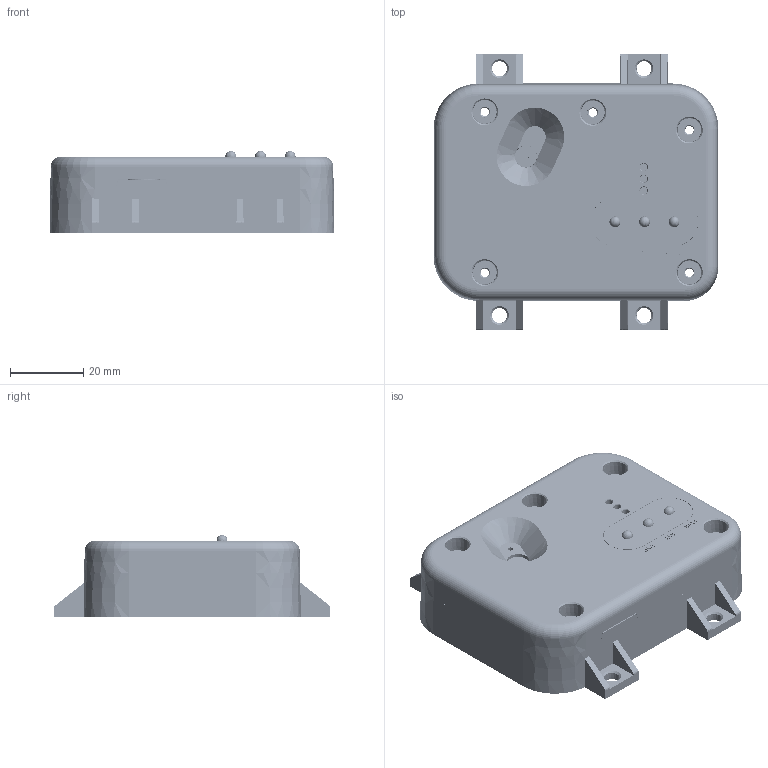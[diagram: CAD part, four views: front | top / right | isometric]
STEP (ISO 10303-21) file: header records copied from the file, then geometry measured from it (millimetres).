
FILE_DESCRIPTION (( 'STEP AP214' ), '1' );
FILE_NAME ('STEVAL-STWINBX1 - Assembly.STEP', '2023-01-17T11:06:23', ( '' ), ( '' ), 'SwSTEP 2.0', 'SolidWorks 2022', '' );
FILE_SCHEMA (( 'AUTOMOTIVE_DESIGN' ));
Length unit declared in the file: millimetre
Products named in the file (187): Copy of Copy of VFLGA12^20201281_steval-stwbxcs1_v3; Copy of Copy of JP2SO-0402-ST-14^20201281_steval-stwbxcs1_v3; Document26^Copy of Copy of UFDFN12-EXP-0300X0300_20201281_steval-stwbxcs1_v3; Document-3^Copy of Copy of UFDFN8-EXP-0200X0200_20201281_steval-stwbxcs1_v3; Copy of mpt_0.5-2-2.5453^20201281_steval-stwbxcs1_v3; Copy of Copy of JP2SO-0402-ST-13^20201281_steval-stwbxcs1_v3; Cubo44^Copy of Copy of VFLGA14L_20201281_steval-stwbxcs1_v3; vuoto^Copy of Copy of JP2SO-0402-ST-3_20201281_steval-stwbxcs1_v3; vuoto^Copy of Copy of JP2SO-0402-ST-22_20201281_steval-stwbxcs1_v3; Copy of Copy of J-2-0254-MDT^20201281_steval-stwbxcs1_v3; Copy of Copy of JP2SO-0402-ST-7^20201281_steval-stwbxcs1_v3; Document14^Copy of Copy of PB-SKRPA_20201281_steval-stwbxcs1_v3; bga169^User Library-bga169 v4_Copy of Copy of UFBGA169_20201281_steval-stwbxcs1_v3; axf5g3412^Copy of Copy of J-17X2-0040-FDS-P4SP_20201281_steval-stwbxcs1_v3; vuoto^Copy of Copy of JP2SO-0402-ST-21_20201281_steval-stwbxcs1_v3; vuoto^Copy of Copy of JP2SO-0402-ST-16_20201281_steval-stwbxcs1_v3; User Library-RES_1005-0402^Copy of Copy of RS-0402_20201281_steval-stwbxcs1_v3; vuoto^Copy of Copy of JP2SO-0402-ST-1_20201281_steval-stwbxcs1_v3; Document33^Copy of Copy of Y-ABS06_20201281_steval-stwbxcs1_v3; Copy of Copy of Copy of Copy of Copy of Copy of Document-1^Assem2_20201281_steval-stwbxcs1_v3; 20201281_steval-stwbxcs1_v3; Copy of Copy of SOD882^20201281_steval-stwbxcs1_v3; Copy of Copy of J-8-0110-FOS-SD-M502774^20201281_steval-stwbxcs1_v3; Copy of Copy of D-1610^20201281_steval-stwbxcs1_v3; Cubo^Copy of Copy of HCLGA5_20201281_steval-stwbxcs1_v3; Copy of Copy of J-5-0254-MOS-1^20201281_steval-stwbxcs1_v3; Copy of Copy of JP2SO-0402-ST-18^20201281_steval-stwbxcs1_v3; Copy of Copy of WFQFN12-EXP-0300X0300^20201281_steval-stwbxcs1_v3; Copy of Copy of JP2SO-0402-ST-20^20201281_steval-stwbxcs1_v3; Document41^Copy of Copy of WFLGA-10_20201281_steval-stwbxcs1_v3; vuoto^Copy of Copy of JP2SO-0402-ST-15_20201281_steval-stwbxcs1_v3; vuoto^Copy of Copy of JP2SO-0402-ST_20201281_steval-stwbxcs1_v3; User Library-SOD882-1^Copy of Copy of SOD882_20201281_steval-stwbxcs1_v3; vuoto^Copy of Copy of J-2-0254-MDT_20201281_steval-stwbxcs1_v3; vuoto^Copy of Copy of JP2SO-0402-ST-11_20201281_steval-stwbxcs1_v3; Copy of Copy of TPT-0100^20201281_steval-stwbxcs1_v3; vuoto^Copy of Copy of JP2SO-0402-ST-9_20201281_steval-stwbxcs1_v3; User Library-bga169 v4^Copy of Copy of UFBGA169_20201281_steval-stwbxcs1_v3; Document17^Copy of Copy of HLGA-6L_20201281_steval-stwbxcs1_v3; Document10^Copy of Copy of UFDFN6-0145X0100_20201281_steval-stwbxcs1_v3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
Assembly tree (527 placements, depth 5):
  STEVAL-STWINBX1 - Assembly
    20201281_steval-stwbxcs1_v3
      Copy of Copy of CS-C-0603^20201281_steval-stwbxcs1_v3  x4
        User Library-cap_0603_lowprofile^Copy of Copy of CS-C-0603_20201281_steval-stwbxcs1_v3
      Copy of Copy of J-7X2-0127-MOS-FTSH107^20201281_steval-stwbxcs1_v3
        vuoto^Copy of Copy of J-7X2-0127-MOS-FTSH107_20201281_steval-stwbxcs1_v3
      Copy of Copy of Copy of _FTSH-107-01-F-DV_body^20201281_steval-stwbxcs1_v3
      Assem2^20201281_steval-stwbxcs1_v3
        Copy of Copy of Copy of Copy of Copy of Copy of Document-1^Assem2_20201281_steval-stwbxcs1_v3
        Copy of Copy of Copy of Copy of Copy of Copy of Document-2^Assem2_20201281_steval-stwbxcs1_v3
      Copy of Copy of UFDFN8-EXP-0200X0200^20201281_steval-stwbxcs1_v3
        Document-3^Copy of Copy of UFDFN8-EXP-0200X0200_20201281_steval-stwbxcs1_v3
      Copy of Copy of LS-BOSDR0805^20201281_steval-stwbxcs1_v3
        User Library-SDR0805-180ML^Copy of Copy of LS-BOSDR0805_20201281_steval-stwbxcs1_v3
      Copy of Copy of JP2SO-0402-ST^20201281_steval-stwbxcs1_v3  x25
        vuoto^Copy of Copy of JP2SO-0402-ST_20201281_steval-stwbxcs1_v3
      Copy of Copy of JP2SO-0402-ST-1^20201281_steval-stwbxcs1_v3
        vuoto^Copy of Copy of JP2SO-0402-ST-1_20201281_steval-stwbxcs1_v3
      Copy of Copy of JP2SO-0402-ST-2^20201281_steval-stwbxcs1_v3
        vuoto^Copy of Copy of JP2SO-0402-ST-2_20201281_steval-stwbxcs1_v3
      Copy of Copy of JP2SO-0402-ST-3^20201281_steval-stwbxcs1_v3
        vuoto^Copy of Copy of JP2SO-0402-ST-3_20201281_steval-stwbxcs1_v3
      Copy of Copy of JP2SO-0402-ST-4^20201281_steval-stwbxcs1_v3
        vuoto^Copy of Copy of JP2SO-0402-ST-4_20201281_steval-stwbxcs1_v3
      Copy of Copy of JP2SO-0402-ST-5^20201281_steval-stwbxcs1_v3
        vuoto^Copy of Copy of JP2SO-0402-ST-5_20201281_steval-stwbxcs1_v3
      Copy of Copy of JP2SO-0402-ST-6^20201281_steval-stwbxcs1_v3
        vuoto^Copy of Copy of JP2SO-0402-ST-6_20201281_steval-stwbxcs1_v3
      Copy of Copy of JP2SO-0402-ST-7^20201281_steval-stwbxcs1_v3
        vuoto^Copy of Copy of JP2SO-0402-ST-7_20201281_steval-stwbxcs1_v3
      Copy of Copy of JP2SO-0402-ST-8^20201281_steval-stwbxcs1_v3
        vuoto^Copy of Copy of JP2SO-0402-ST-8_20201281_steval-stwbxcs1_v3
      Copy of Copy of JP2SO-0402-ST-9^20201281_steval-stwbxcs1_v3
        vuoto^Copy of Copy of JP2SO-0402-ST-9_20201281_steval-stwbxcs1_v3
      Copy of Copy of JP2SO-0402-ST-10^20201281_steval-stwbxcs1_v3
        vuoto^Copy of Copy of JP2SO-0402-ST-10_20201281_steval-stwbxcs1_v3
      Copy of Copy of JP2SO-0402-ST-11^20201281_steval-stwbxcs1_v3
        vuoto^Copy of Copy of JP2SO-0402-ST-11_20201281_steval-stwbxcs1_v3
      Copy of Copy of JP2SO-0402-ST-12^20201281_steval-stwbxcs1_v3
        vuoto^Copy of Copy of JP2SO-0402-ST-12_20201281_steval-stwbxcs1_v3
      Copy of Copy of JP2SO-0402-ST-13^20201281_steval-stwbxcs1_v3
        vuoto^Copy of Copy of JP2SO-0402-ST-13_20201281_steval-stwbxcs1_v3
      Copy of Copy of JP2SO-0402-ST-14^20201281_steval-stwbxcs1_v3
        vuoto^Copy of Copy of JP2SO-0402-ST-14_20201281_steval-stwbxcs1_v3
      Copy of Copy of JP2SO-0402-ST-15^20201281_steval-stwbxcs1_v3
        vuoto^Copy of Copy of JP2SO-0402-ST-15_20201281_steval-stwbxcs1_v3
      Copy of Copy of JP2SO-0402-ST-16^20201281_steval-stwbxcs1_v3
        vuoto^Copy of Copy of JP2SO-0402-ST-16_20201281_steval-stwbxcs1_v3
      Copy of Copy of JP2SO-0402-ST-17^20201281_steval-stwbxcs1_v3
        vuoto^Copy of Copy of JP2SO-0402-ST-17_20201281_steval-stwbxcs1_v3
      Copy of Copy of JP2SO-0402-ST-18^20201281_steval-stwbxcs1_v3
        vuoto^Copy of Copy of JP2SO-0402-ST-18_20201281_steval-stwbxcs1_v3
      Copy of Copy of JP2SO-0402-ST-19^20201281_steval-stwbxcs1_v3
        vuoto^Copy of Copy of JP2SO-0402-ST-19_20201281_steval-stwbxcs1_v3
      Copy of Copy of JP2SO-0402-ST-20^20201281_steval-stwbxcs1_v3
        vuoto^Copy of Copy of JP2SO-0402-ST-20_20201281_steval-stwbxcs1_v3
      Copy of Copy of JP2SO-0402-ST-21^20201281_steval-stwbxcs1_v3
        vuoto^Copy of Copy of JP2SO-0402-ST-21_20201281_steval-stwbxcs1_v3
      Copy of Copy of JP2SO-0402-ST-22^20201281_steval-stwbxcs1_v3
        vuoto^Copy of Copy of JP2SO-0402-ST-22_20201281_steval-stwbxcs1_v3
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Bounding box: 77.98 x 75.6 x 22.43 mm (x, y, z)
Volume: 38776.2 mm3; surface area: 49509.5 mm2
Topology: 594 solids, 735 shells, 21504 faces, 53939 edges, 33591 vertices
Faces by surface type: plane 10874, bspline 9592, cylinder 774, cone 179, sphere 52, torus 33
Entity records: 359750 total; most frequent: CARTESIAN_POINT 159181, ORIENTED_EDGE 52008, EDGE_CURVE 26044, B_SPLINE_CURVE_WITH_KNOTS 20905, DIRECTION 18080, VERTEX_POINT 16897, EDGE_LOOP 10920, FACE_OUTER_BOUND 9876
